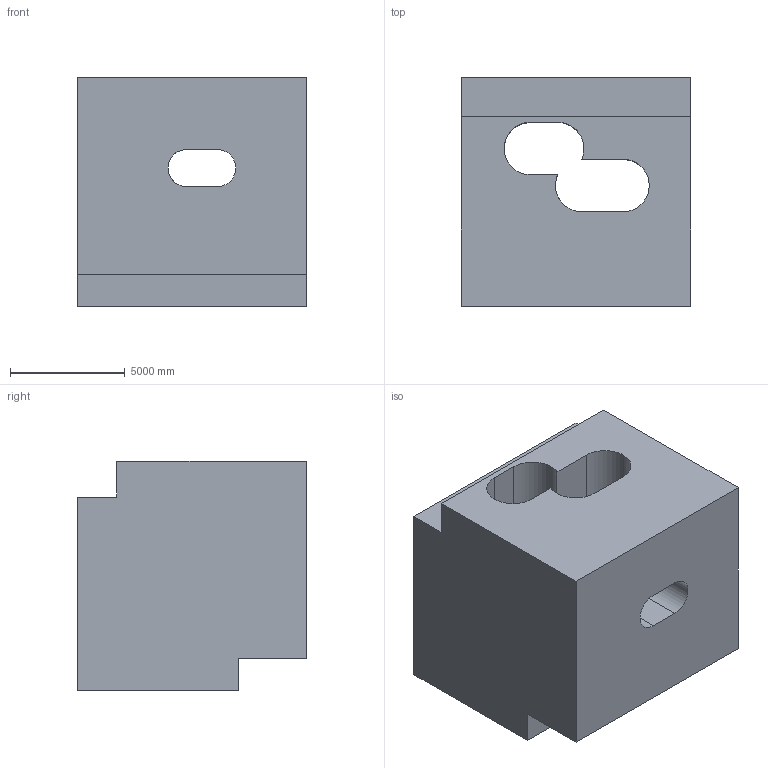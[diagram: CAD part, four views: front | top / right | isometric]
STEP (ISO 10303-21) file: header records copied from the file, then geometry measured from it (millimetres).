
FILE_DESCRIPTION (( 'STEP AP203' ), '1' );
FILE_NAME ('323.STEP', '2022-09-07T12:52:21', ( 'user' ), ( '' ), 'SwSTEP 2.0', 'SolidWorks 2021', '' );
FILE_SCHEMA (( 'CONFIG_CONTROL_DESIGN' ));
Length unit declared in the file: centimetre
Products named in the file (1): 323
Bounding box: 10000 x 10000 x 10000 mm (x, y, z)
Volume: 731261611366.8 mm3; surface area: 816071449.9 mm2
Topology: 1 solids, 1 shells, 43 faces, 126 edges, 84 vertices
Faces by surface type: plane 27, cylinder 16
Entity records: 1755 total; most frequent: CARTESIAN_POINT 498, ORIENTED_EDGE 252, DIRECTION 240, EDGE_CURVE 126, VECTOR 88, LINE 88, VERTEX_POINT 84, AXIS2_PLACEMENT_3D 76
